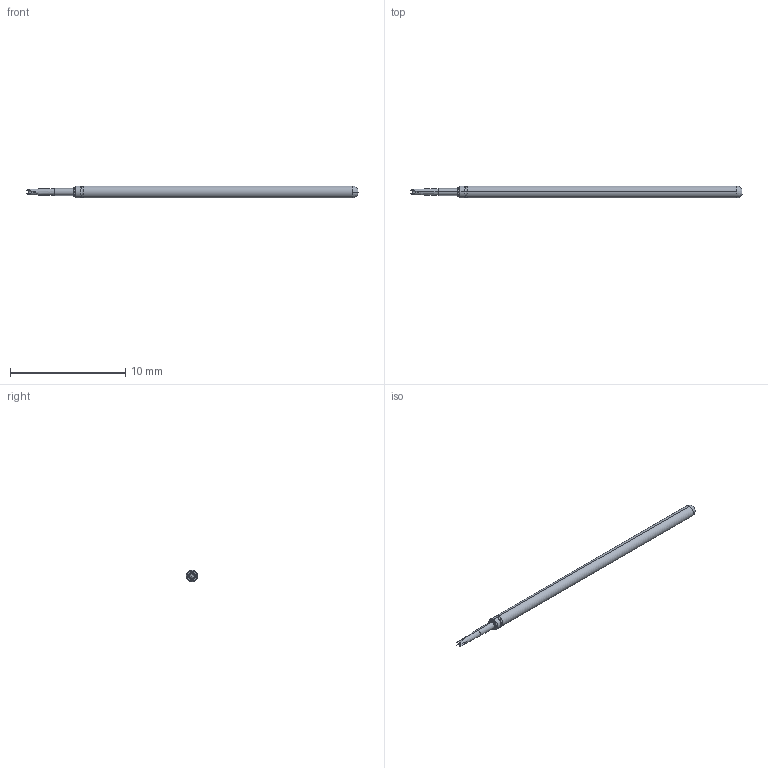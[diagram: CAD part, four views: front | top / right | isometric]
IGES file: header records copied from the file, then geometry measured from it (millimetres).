
Start section: SolidWorks IGES file using analytic representation for surfaces
Global section: file name: Z:\probe solid model mockups\Solidworks models\Parts\LFRE-1L18 RECD.IGS; native system: SolidWorks 2016; preprocessor: SolidWorks 2016; author: mlee; date: 180927.163633; units: inch
Bounding box: 28.78 x 1.02 x 1.02 mm (x, y, z)
Surface area: 86.8 mm2 (no closed solid volume)
Topology: 0 solids, 0 shells, 28 faces, 178 edges, 178 vertices
Faces by surface type: bspline 14, revolution 14
